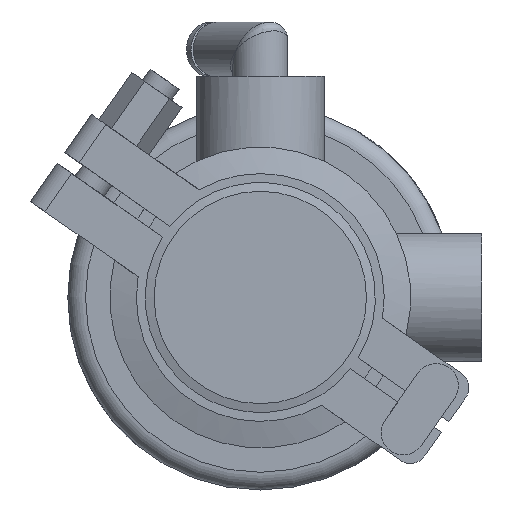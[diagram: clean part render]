
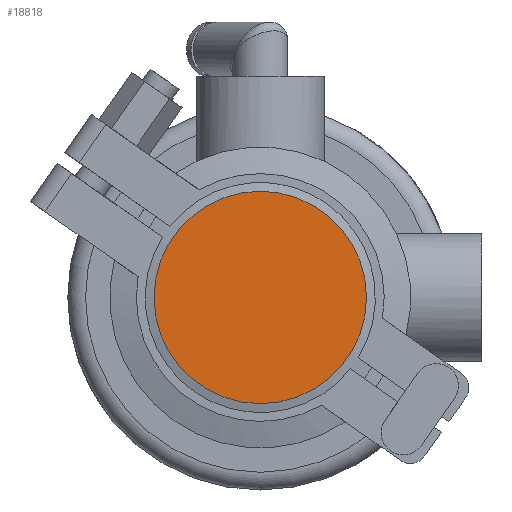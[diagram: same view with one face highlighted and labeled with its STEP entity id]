
A CAD part, front view. The second image highlights one B-rep face of the part: STEP entity #18818.
In plain terms, the highlighted planar face has unit normal (0, -1, 0).
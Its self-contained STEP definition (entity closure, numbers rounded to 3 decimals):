
#78 = DIRECTION ( 'NONE',  ( 0., 0., -1. ) ) ;
#1781 = DIRECTION ( 'NONE',  ( 0., 1., 0. ) ) ;
#3365 = VERTEX_POINT ( 'NONE', #7968 ) ;
#4392 = CIRCLE ( 'NONE', #16100, 24. ) ;
#5867 = CARTESIAN_POINT ( 'NONE',  ( -24., 0., 0. ) ) ;
#6005 = ORIENTED_EDGE ( 'NONE', *, *, #19393, .F. ) ;
#7968 = CARTESIAN_POINT ( 'NONE',  ( 0., 0., 24. ) ) ;
#10982 = CARTESIAN_POINT ( 'NONE',  ( 0., 0., 0. ) ) ;
#11973 = DIRECTION ( 'NONE',  ( 0., -1., 0. ) ) ;
#15494 = FACE_OUTER_BOUND ( 'NONE', #15732, .T. ) ;
#15732 = EDGE_LOOP ( 'NONE', ( #6005 ) ) ;
#16100 = AXIS2_PLACEMENT_3D ( 'NONE', #10982, #1781, #18820 ) ;
#18673 = AXIS2_PLACEMENT_3D ( 'NONE', #5867, #11973, #78 ) ;
#18818 = ADVANCED_FACE ( 'NONE', ( #15494 ), #20163, .T. ) ;
#18820 = DIRECTION ( 'NONE',  ( 0., 0., 1. ) ) ;
#19393 = EDGE_CURVE ( 'NONE', #3365, #3365, #4392, .T. ) ;
#20163 = PLANE ( 'NONE',  #18673 ) ;
